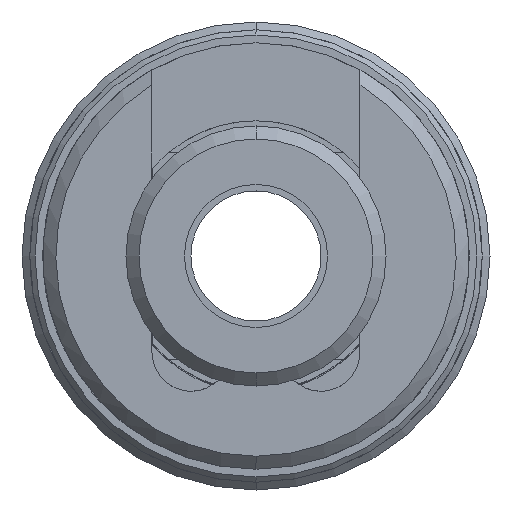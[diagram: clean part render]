
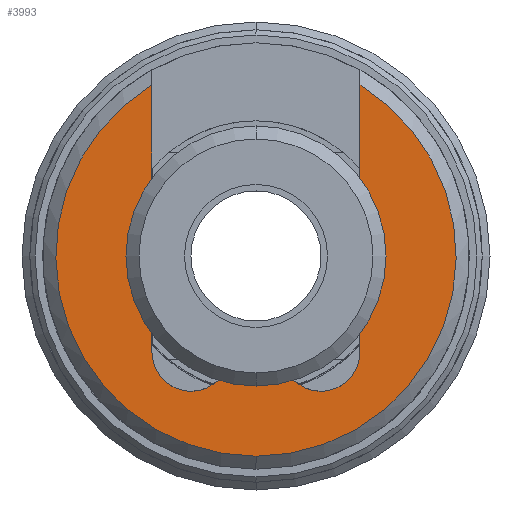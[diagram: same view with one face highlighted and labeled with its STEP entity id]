
A CAD part, front view. The second image highlights one B-rep face of the part: STEP entity #3993.
In plain terms, the highlighted planar face has unit normal (0, -1, 0).
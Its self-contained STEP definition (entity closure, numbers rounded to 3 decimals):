
#1346 = CARTESIAN_POINT ( 'NONE',  ( 1.086, -33., 4.2 ) ) ;
#1381 = DIRECTION ( 'NONE',  ( 0., 0., -1. ) ) ;
#1382 = VECTOR ( 'NONE', #1381, 1000. ) ;
#1386 = CARTESIAN_POINT ( 'NONE',  ( 4., -33., 3.7 ) ) ;
#1387 = LINE ( 'NONE', #1386, #1382 ) ;
#1424 = CARTESIAN_POINT ( 'NONE',  ( 4., -33., 3.7 ) ) ;
#1870 = VERTEX_POINT ( 'NONE', #3304 ) ;
#1872 = EDGE_CURVE ( 'NONE', #1881, #1870, #3279, .T. ) ;
#1881 = VERTEX_POINT ( 'NONE', #3311 ) ;
#2551 = VERTEX_POINT ( 'NONE', #1346 ) ;
#2552 = ORIENTED_EDGE ( 'NONE', *, *, #4015, .T. ) ;
#2561 = EDGE_CURVE ( 'NONE', #2575, #4122, #1387, .T. ) ;
#2575 = VERTEX_POINT ( 'NONE', #1424 ) ;
#3205 = DIRECTION ( 'NONE',  ( 0., 0., -1. ) ) ;
#3206 = DIRECTION ( 'NONE',  ( 0., -1., 0. ) ) ;
#3207 = AXIS2_PLACEMENT_3D ( 'NONE', #3299, #3206, #3205 ) ;
#3279 = CIRCLE ( 'NONE', #3207, 7.7 ) ;
#3299 = CARTESIAN_POINT ( 'NONE',  ( 0., -33., 0. ) ) ;
#3304 = CARTESIAN_POINT ( 'NONE',  ( -4., -33., -6.58 ) ) ;
#3311 = CARTESIAN_POINT ( 'NONE',  ( 0., -33., 7.7 ) ) ;
#3415 = CARTESIAN_POINT ( 'NONE',  ( -1.086, -33., 4.2 ) ) ;
#3425 = DIRECTION ( 'NONE',  ( 0., 0., -1. ) ) ;
#3426 = DIRECTION ( 'NONE',  ( 0., -1., 0. ) ) ;
#3427 = CARTESIAN_POINT ( 'NONE',  ( 8.2, -33., 0. ) ) ;
#3428 = AXIS2_PLACEMENT_3D ( 'NONE', #3427, #3426, #3425 ) ;
#3429 = PLANE ( 'NONE',  #3428 ) ;
#3438 = FACE_OUTER_BOUND ( 'NONE', #4038, .T. ) ;
#3453 = CIRCLE ( 'NONE', #3499, 1.5 ) ;
#3456 = DIRECTION ( 'NONE',  ( 0., 0., -1. ) ) ;
#3457 = DIRECTION ( 'NONE',  ( 0., 1., 0. ) ) ;
#3458 = CARTESIAN_POINT ( 'NONE',  ( -2.5, -33., 3.7 ) ) ;
#3468 = CIRCLE ( 'NONE', #3472, 1.5 ) ;
#3472 = AXIS2_PLACEMENT_3D ( 'NONE', #3458, #3457, #3456 ) ;
#3479 = LINE ( 'NONE', #3534, #3533 ) ;
#3496 = DIRECTION ( 'NONE',  ( 0., 0., 1. ) ) ;
#3497 = DIRECTION ( 'NONE',  ( 0., 1., 0. ) ) ;
#3498 = CARTESIAN_POINT ( 'NONE',  ( 2.5, -33., 3.7 ) ) ;
#3499 = AXIS2_PLACEMENT_3D ( 'NONE', #3498, #3497, #3496 ) ;
#3532 = DIRECTION ( 'NONE',  ( 1., 0., 0. ) ) ;
#3533 = VECTOR ( 'NONE', #3532, 1000. ) ;
#3534 = CARTESIAN_POINT ( 'NONE',  ( -1.086, -33., 4.2 ) ) ;
#3595 = CARTESIAN_POINT ( 'NONE',  ( 0., -33., 0. ) ) ;
#3609 = CIRCLE ( 'NONE', #3636, 7.7 ) ;
#3629 = DIRECTION ( 'NONE',  ( 0., 0., 1. ) ) ;
#3630 = VECTOR ( 'NONE', #3629, 1000. ) ;
#3631 = CARTESIAN_POINT ( 'NONE',  ( -4., -33., 0. ) ) ;
#3632 = CARTESIAN_POINT ( 'NONE',  ( -4., -33., 3.7 ) ) ;
#3633 = CARTESIAN_POINT ( 'NONE',  ( 4., -33., -6.58 ) ) ;
#3634 = DIRECTION ( 'NONE',  ( 0., 0., -1. ) ) ;
#3635 = DIRECTION ( 'NONE',  ( 0., -1., 0. ) ) ;
#3636 = AXIS2_PLACEMENT_3D ( 'NONE', #3595, #3635, #3634 ) ;
#3638 = LINE ( 'NONE', #3631, #3630 ) ;
#3993 = ADVANCED_FACE ( 'NONE', ( #3438 ), #3429, .T. ) ;
#4010 = VERTEX_POINT ( 'NONE', #3415 ) ;
#4011 = ORIENTED_EDGE ( 'NONE', *, *, #4022, .T. ) ;
#4014 = ORIENTED_EDGE ( 'NONE', *, *, #4121, .T. ) ;
#4015 = EDGE_CURVE ( 'NONE', #4123, #4010, #3468, .T. ) ;
#4022 = EDGE_CURVE ( 'NONE', #2551, #2575, #3453, .T. ) ;
#4036 = ORIENTED_EDGE ( 'NONE', *, *, #4119, .T. ) ;
#4037 = ORIENTED_EDGE ( 'NONE', *, *, #2561, .T. ) ;
#4038 = EDGE_LOOP ( 'NONE', ( #4037, #4036, #4117, #4014, #2552, #4116, #4011 ) ) ;
#4041 = EDGE_CURVE ( 'NONE', #4010, #2551, #3479, .T. ) ;
#4116 = ORIENTED_EDGE ( 'NONE', *, *, #4041, .T. ) ;
#4117 = ORIENTED_EDGE ( 'NONE', *, *, #1872, .T. ) ;
#4119 = EDGE_CURVE ( 'NONE', #4122, #1881, #3609, .T. ) ;
#4121 = EDGE_CURVE ( 'NONE', #1870, #4123, #3638, .T. ) ;
#4122 = VERTEX_POINT ( 'NONE', #3633 ) ;
#4123 = VERTEX_POINT ( 'NONE', #3632 ) ;
